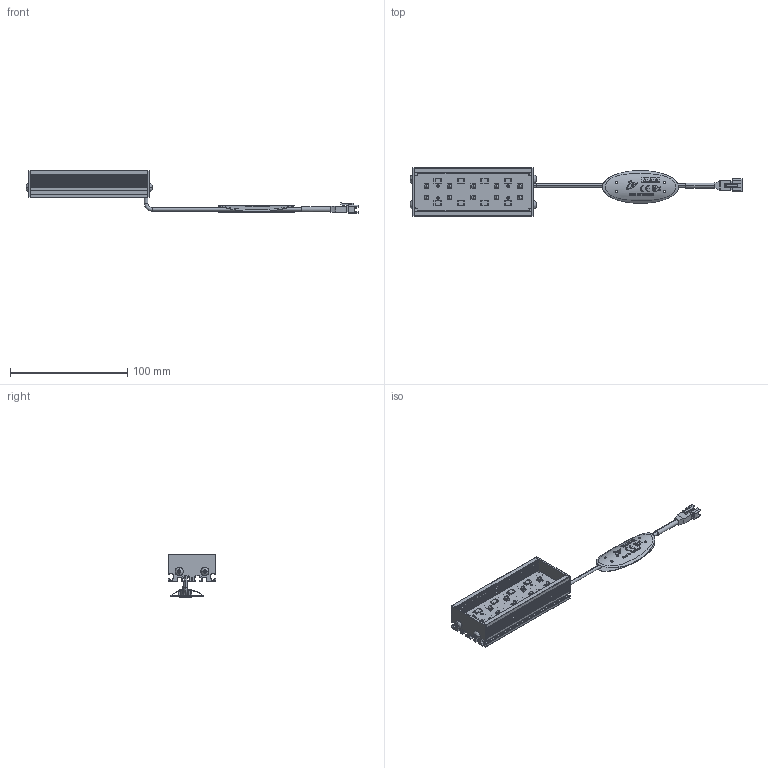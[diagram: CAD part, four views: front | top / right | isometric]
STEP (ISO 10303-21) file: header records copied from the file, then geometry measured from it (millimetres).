
FILE_DESCRIPTION (( 'STEP AP214' ), '1' );
FILE_NAME ('VBA-10030UV365_DRAWING_3D.STEP', '2024-07-08T04:35:16', ( '' ), ( '' ), 'SwSTEP 2.0', 'SolidWorks 2023', '' );
FILE_SCHEMA (( 'AUTOMOTIVE_DESIGN' ));
Length unit declared in the file: millimetre
Products named in the file (10): 3P_G.stp; PCB.stp; LABLE UV; MXB0164.stp; CABEL TAG (VS).stp; BASE.stp; VBA-10030UV365_DRAWING_3D; MXB8146.stp; VBA-10030UV365_DRAWING_3D.stp; SIDE PLATE_1.stp
Assembly tree (16 placements, depth 3):
  VBA-10030UV365_DRAWING_3D
    VBA-10030UV365_DRAWING_3D.stp
      BASE.stp
      PCB.stp
      MXB0164.stp  x4
      SIDE PLATE_1.stp  x2
      3P_G.stp
      MXB8146.stp  x4
      CABEL TAG (VS).stp
    LABLE UV
Bounding box: 283.74 x 41 x 36.64 mm (x, y, z)
Volume: 43773.7 mm3; surface area: 52001.9 mm2
Topology: 50 solids, 52 shells, 2146 faces, 5957 edges, 4071 vertices
Faces by surface type: plane 1361, cylinder 384, bspline 351, torus 22, sphere 20, cone 8
Entity records: 93243 total; most frequent: CARTESIAN_POINT 35221, ORIENTED_EDGE 10718, DIRECTION 7771, EDGE_CURVE 5359, VERTEX_POINT 3683, VECTOR 3315, LINE 3315, AXIS2_PLACEMENT_3D 2228
